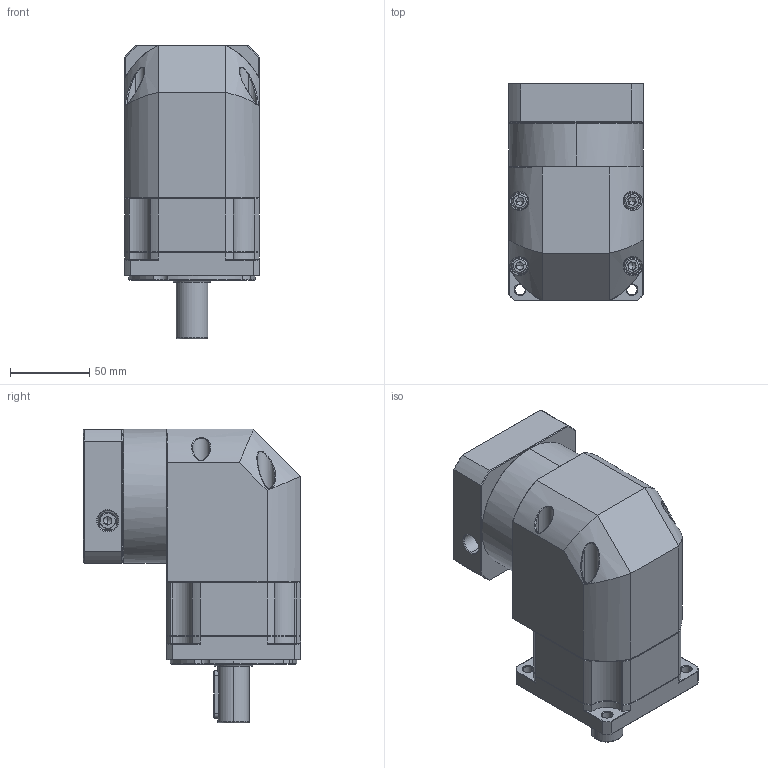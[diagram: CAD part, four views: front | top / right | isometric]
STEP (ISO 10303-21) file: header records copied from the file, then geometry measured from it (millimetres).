
FILE_DESCRIPTION (( 'STEP AP214' ), '1' );
FILE_NAME ('ZBR090-D20-L1-P2-12.7-73-69.6X69.6-M6.step', '2023-08-19T02:01:02', ( '' ), ( '' ), 'SwSTEP 2.0', 'SolidWorks 2016', '' );
FILE_SCHEMA (( 'AUTOMOTIVE_DESIGN' ));
Length unit declared in the file: millimetre
Products named in the file (1): ZBR090-D20-L1-P2-12.7-73-69.6X69.6-M6
Bounding box: 85 x 137.6 x 186 mm (x, y, z)
Volume: 1183934.2 mm3; surface area: 129684.9 mm2
Topology: 5 solids, 5 shells, 2401 faces, 6271 edges, 3962 vertices
Faces by surface type: plane 1157, cylinder 447, bspline 421, cone 350, torus 26
Entity records: 129470 total; most frequent: CARTESIAN_POINT 47747, ORIENTED_EDGE 12466, DIRECTION 9904, EDGE_CURVE 6233, LINE 3964, VECTOR 3964, VERTEX_POINT 3962, AXIS2_PLACEMENT_3D 2970
